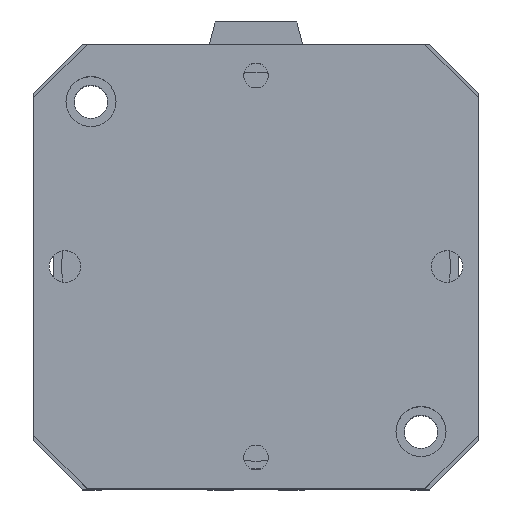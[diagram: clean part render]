
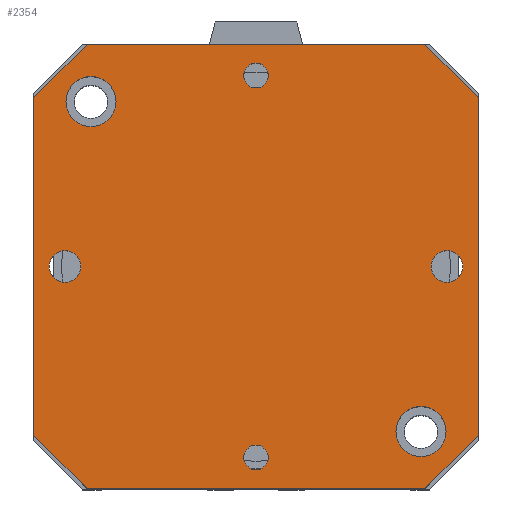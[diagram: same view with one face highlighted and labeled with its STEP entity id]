
A CAD part, top view. The second image highlights one B-rep face of the part: STEP entity #2354.
In plain terms, the highlighted planar face has unit normal (0, 0, 1).
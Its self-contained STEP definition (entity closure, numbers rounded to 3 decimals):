
#221=LINE('',#3869,#429);
#223=LINE('',#3873,#431);
#225=LINE('',#3877,#433);
#227=LINE('',#3881,#435);
#229=LINE('',#3885,#437);
#231=LINE('',#3889,#439);
#233=LINE('',#3893,#441);
#235=LINE('',#3896,#443);
#429=VECTOR('',#3196,91.);
#431=VECTOR('',#3200,20.506);
#433=VECTOR('',#3204,91.);
#435=VECTOR('',#3208,20.506);
#437=VECTOR('',#3212,91.);
#439=VECTOR('',#3216,20.506);
#441=VECTOR('',#3220,91.);
#443=VECTOR('',#3224,20.506);
#537=PLANE('',#2580);
#626=FACE_BOUND('',#956,.T.);
#627=FACE_BOUND('',#957,.T.);
#628=FACE_BOUND('',#958,.T.);
#629=FACE_BOUND('',#959,.T.);
#630=FACE_BOUND('',#960,.T.);
#631=FACE_BOUND('',#961,.T.);
#632=FACE_BOUND('',#962,.T.);
#956=EDGE_LOOP('',(#2134));
#957=EDGE_LOOP('',(#2135));
#958=EDGE_LOOP('',(#2136));
#959=EDGE_LOOP('',(#2137));
#960=EDGE_LOOP('',(#2138));
#961=EDGE_LOOP('',(#2139));
#962=EDGE_LOOP('',(#2140,#2141,#2142,#2143,#2144,#2145,#2146,#2147));
#1035=CIRCLE('',#2536,3.324);
#1037=CIRCLE('',#2539,3.324);
#1042=CIRCLE('',#2547,4.25);
#1046=CIRCLE('',#2554,4.25);
#1055=CIRCLE('',#2569,6.75);
#1056=CIRCLE('',#2571,6.75);
#1235=VERTEX_POINT('',#3787);
#1237=VERTEX_POINT('',#3792);
#1242=VERTEX_POINT('',#3805);
#1246=VERTEX_POINT('',#3816);
#1265=VERTEX_POINT('',#3860);
#1266=VERTEX_POINT('',#3863);
#1267=VERTEX_POINT('',#3866);
#1268=VERTEX_POINT('',#3868);
#1269=VERTEX_POINT('',#3872);
#1270=VERTEX_POINT('',#3876);
#1271=VERTEX_POINT('',#3880);
#1272=VERTEX_POINT('',#3884);
#1273=VERTEX_POINT('',#3888);
#1274=VERTEX_POINT('',#3892);
#1521=EDGE_CURVE('',#1235,#1235,#1035,.T.);
#1523=EDGE_CURVE('',#1237,#1237,#1037,.T.);
#1528=EDGE_CURVE('',#1242,#1242,#1042,.T.);
#1532=EDGE_CURVE('',#1246,#1246,#1046,.T.);
#1551=EDGE_CURVE('',#1265,#1265,#1055,.T.);
#1552=EDGE_CURVE('',#1266,#1266,#1056,.T.);
#1554=EDGE_CURVE('',#1268,#1267,#221,.T.);
#1556=EDGE_CURVE('',#1269,#1268,#223,.T.);
#1558=EDGE_CURVE('',#1270,#1269,#225,.T.);
#1560=EDGE_CURVE('',#1271,#1270,#227,.T.);
#1562=EDGE_CURVE('',#1272,#1271,#229,.T.);
#1564=EDGE_CURVE('',#1273,#1272,#231,.T.);
#1566=EDGE_CURVE('',#1274,#1273,#233,.T.);
#1568=EDGE_CURVE('',#1267,#1274,#235,.T.);
#2134=ORIENTED_EDGE('',*,*,#1521,.T.);
#2135=ORIENTED_EDGE('',*,*,#1523,.T.);
#2136=ORIENTED_EDGE('',*,*,#1528,.T.);
#2137=ORIENTED_EDGE('',*,*,#1532,.T.);
#2138=ORIENTED_EDGE('',*,*,#1551,.T.);
#2139=ORIENTED_EDGE('',*,*,#1552,.T.);
#2140=ORIENTED_EDGE('',*,*,#1568,.T.);
#2141=ORIENTED_EDGE('',*,*,#1566,.T.);
#2142=ORIENTED_EDGE('',*,*,#1564,.T.);
#2143=ORIENTED_EDGE('',*,*,#1562,.T.);
#2144=ORIENTED_EDGE('',*,*,#1560,.T.);
#2145=ORIENTED_EDGE('',*,*,#1558,.T.);
#2146=ORIENTED_EDGE('',*,*,#1556,.T.);
#2147=ORIENTED_EDGE('',*,*,#1554,.T.);
#2354=ADVANCED_FACE('',(#626,#627,#628,#629,#630,#631,#632),#537,.T.);
#2536=AXIS2_PLACEMENT_3D('',#3788,#3111,#3112);
#2539=AXIS2_PLACEMENT_3D('',#3793,#3117,#3118);
#2547=AXIS2_PLACEMENT_3D('',#3806,#3133,#3134);
#2554=AXIS2_PLACEMENT_3D('',#3817,#3147,#3148);
#2569=AXIS2_PLACEMENT_3D('',#3861,#3187,#3188);
#2571=AXIS2_PLACEMENT_3D('',#3864,#3191,#3192);
#2580=AXIS2_PLACEMENT_3D('',#3897,#3225,#3226);
#3111=DIRECTION('center_axis',(0.,0.,-1.));
#3112=DIRECTION('ref_axis',(1.,0.,0.));
#3117=DIRECTION('center_axis',(0.,0.,-1.));
#3118=DIRECTION('ref_axis',(1.,0.,0.));
#3133=DIRECTION('center_axis',(0.,0.,-1.));
#3134=DIRECTION('ref_axis',(1.,0.,0.));
#3147=DIRECTION('center_axis',(0.,0.,-1.));
#3148=DIRECTION('ref_axis',(1.,0.,0.));
#3187=DIRECTION('center_axis',(0.,0.,-1.));
#3188=DIRECTION('ref_axis',(-1.,0.,0.));
#3191=DIRECTION('center_axis',(0.,0.,-1.));
#3192=DIRECTION('ref_axis',(-1.,0.,0.));
#3196=DIRECTION('',(0.,1.,0.));
#3200=DIRECTION('',(0.707,0.707,0.));
#3204=DIRECTION('',(1.,0.,0.));
#3208=DIRECTION('',(0.707,-0.707,0.));
#3212=DIRECTION('',(0.,-1.,0.));
#3216=DIRECTION('',(-0.707,-0.707,0.));
#3220=DIRECTION('',(-1.,0.,0.));
#3224=DIRECTION('',(-0.707,0.707,0.));
#3225=DIRECTION('center_axis',(0.,0.,1.));
#3226=DIRECTION('ref_axis',(1.,0.,0.));
#3787=CARTESIAN_POINT('',(-54.824,0.,125.75));
#3788=CARTESIAN_POINT('Origin',(-51.5,0.,125.75));
#3792=CARTESIAN_POINT('',(48.177,0.,125.75));
#3793=CARTESIAN_POINT('Origin',(51.5,0.,125.75));
#3805=CARTESIAN_POINT('',(-4.25,51.5,125.75));
#3806=CARTESIAN_POINT('Origin',(0.,51.5,125.75));
#3816=CARTESIAN_POINT('',(-4.25,-51.5,125.75));
#3817=CARTESIAN_POINT('Origin',(0.,-51.5,125.75));
#3860=CARTESIAN_POINT('',(-37.75,-44.5,125.75));
#3861=CARTESIAN_POINT('Origin',(-44.5,-44.5,125.75));
#3863=CARTESIAN_POINT('',(51.25,44.5,125.75));
#3864=CARTESIAN_POINT('Origin',(44.5,44.5,125.75));
#3866=CARTESIAN_POINT('',(60.,45.5,125.75));
#3868=CARTESIAN_POINT('',(60.,-45.5,125.75));
#3869=CARTESIAN_POINT('',(60.,45.5,125.75));
#3872=CARTESIAN_POINT('',(45.5,-60.,125.75));
#3873=CARTESIAN_POINT('',(60.,-45.5,125.75));
#3876=CARTESIAN_POINT('',(-45.5,-60.,125.75));
#3877=CARTESIAN_POINT('',(45.5,-60.,125.75));
#3880=CARTESIAN_POINT('',(-60.,-45.5,125.75));
#3881=CARTESIAN_POINT('',(-45.5,-60.,125.75));
#3884=CARTESIAN_POINT('',(-60.,45.5,125.75));
#3885=CARTESIAN_POINT('',(-60.,-45.5,125.75));
#3888=CARTESIAN_POINT('',(-45.5,60.,125.75));
#3889=CARTESIAN_POINT('',(-60.,45.5,125.75));
#3892=CARTESIAN_POINT('',(45.5,60.,125.75));
#3893=CARTESIAN_POINT('',(-45.5,60.,125.75));
#3896=CARTESIAN_POINT('',(45.5,60.,125.75));
#3897=CARTESIAN_POINT('Origin',(0.,0.,125.75));
